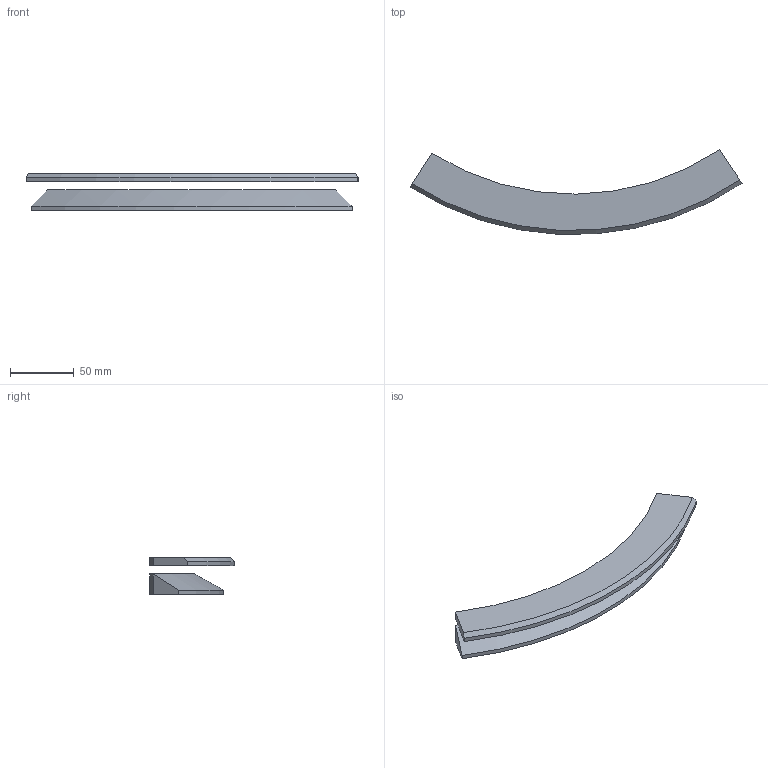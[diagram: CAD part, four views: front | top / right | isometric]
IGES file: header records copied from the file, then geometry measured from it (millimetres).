
Start section: 3D InterOp IGES (Version 21 0 3), Spatial Corp. Copyright (c) 1999-2007.
Global section: file name: CSR Large Data Port Assy 20140329.igs; native system: Spatial Corp.; preprocessor: 3D InterOp GENERIC/IGES 3.0; author: Noname; organization: Noname; date: 20140501.114237; units: inch
Bounding box: 260.24 x 66.25 x 28.57 mm (x, y, z)
Surface area: 37135.4 mm2 (no closed solid volume)
Topology: 0 solids, 0 shells, 13 faces, 54 edges, 54 vertices
Faces by surface type: extrusion 7, revolution 6
